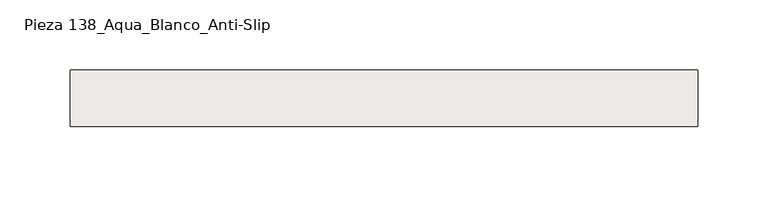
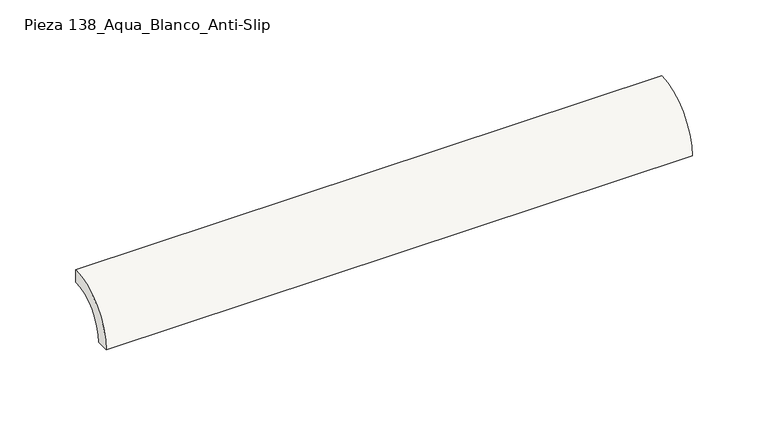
"""IFC4 building model written with IfcOpenShell, lengths in millimetres: slab geometry, ROSA GRES_138 : Pieza 138_Aqua_Blanco_Anti-Slip."""

from ifc_helpers import new_model, si_unit, point, frame, frame_2d, origin, origin_2d, place, context, project, spatial, polyline, circle_curve, trimmed, segment, composite_curve, outline, extrude, source, transform, mapped, element, save


def pieza_138_aqua_blanco_anti_slip_4c358677(model_context):
    return source(origin(), model_context, "Body", "SweptSolid", [
        extrude(outline(composite_curve([segment(polyline([(0.0, 40.0), (0.0, 30.0265886)]), True, "CONTINUOUS"), segment(trimmed(circle_curve(frame_2d((-0.0044453, 0.0044453)), 30.0221435), [point((0.0, 30.0265886))], [point((-30.0265886, 0.0))], True, "CARTESIAN"), True, "CONTINUOUS"), segment(polyline([(-30.0265886, 0.0), (-40.0, 0.0)]), True, "CONTINUOUS"), segment(trimmed(circle_curve(origin_2d(), 40.0), [point((-40.0, 0.0))], [point((0.0, 40.0))], False, "CARTESIAN"), True, "CONTINUOUS")], self_intersect=False)), frame((0.0, 0.0, 0.0), z_axis=(1.0, 0.0, 0.0), x_axis=(0.0, 1.0, 0.0)), (0.0, 0.0, 1.0), 445.5087427),
    ])


if __name__ == "__main__":
    model = new_model("IFC4")
    model_context = context("Model", 3, world=origin())
    ifc_project = project(units=[si_unit("LENGTHUNIT", "METRE", prefix="MILLI")], contexts=[model_context])
    site = spatial("IfcSite", under=ifc_project)
    building = spatial("IfcBuilding", under=site)
    placement = place(None, origin())
    pieza_138_aqua_blanco_anti_slip_shape = pieza_138_aqua_blanco_anti_slip_4c358677(model_context)
    element("IfcSlab", 1, ObjectType="ROSA GRES_138 : Pieza 138_Aqua_Blanco_Anti-Slip", at=placement, inside=building, context=model_context, shape_type="MappedRepresentation", body=[
        mapped(pieza_138_aqua_blanco_anti_slip_shape, transform((0.0, 0.0, 0.0), x_axis=(1.0, 0.0, 0.0), y_axis=(0.0, 1.0, 0.0), z_axis=(0.0, 0.0, 1.0))),
    ])
    save(model, "model.ifc")
